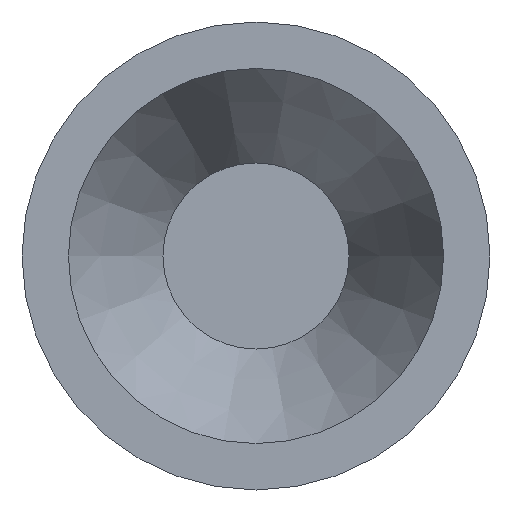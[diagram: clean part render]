
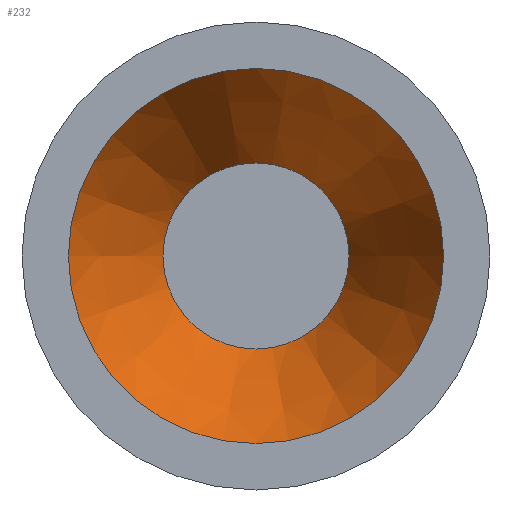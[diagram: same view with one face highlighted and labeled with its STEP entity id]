
A CAD part, left-side view. The second image highlights one B-rep face of the part: STEP entity #232.
In plain terms, the highlighted conical face has half-angle 27 degrees and reference radius 1.186 mm.
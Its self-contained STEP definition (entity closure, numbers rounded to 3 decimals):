
#13=CONICAL_SURFACE($,#266,1.186,27.);
#35=FACE_BOUND($,#84,.T.);
#55=FACE_OUTER_BOUND($,#83,.T.);
#83=EDGE_LOOP($,(#188));
#84=EDGE_LOOP($,(#189));
#117=CIRCLE($,#265,0.785);
#118=CIRCLE($,#267,1.588);
#138=VERTEX_POINT($,#405);
#139=VERTEX_POINT($,#408);
#159=EDGE_CURVE($,#138,#138,#117,.T.);
#160=EDGE_CURVE($,#139,#139,#118,.T.);
#188=ORIENTED_EDGE($,*,*,#160,.F.);
#189=ORIENTED_EDGE($,*,*,#159,.T.);
#232=ADVANCED_FACE($,(#55,#35),#13,.F.);
#265=AXIS2_PLACEMENT_3D($,#406,#326,#327);
#266=AXIS2_PLACEMENT_3D($,#407,#328,#329);
#267=AXIS2_PLACEMENT_3D($,#409,#330,#331);
#326=DIRECTION('center_axis',(1.,0.,0.));
#327=DIRECTION('ref_axis',(0.,1.,0.));
#328=DIRECTION('center_axis',(-1.,0.,0.));
#329=DIRECTION('ref_axis',(0.,1.,0.));
#330=DIRECTION('center_axis',(1.,0.,0.));
#331=DIRECTION('ref_axis',(0.,1.,0.));
#405=CARTESIAN_POINT('',(4.975,0.785,0.));
#406=CARTESIAN_POINT('Origin',(4.975,0.,0.));
#407=CARTESIAN_POINT('Origin',(4.187,0.,0.));
#408=CARTESIAN_POINT('',(3.4,1.588,0.));
#409=CARTESIAN_POINT('Origin',(3.4,0.,0.));
